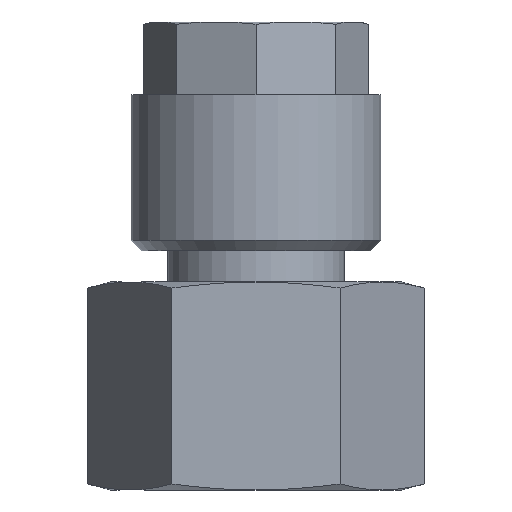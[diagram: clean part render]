
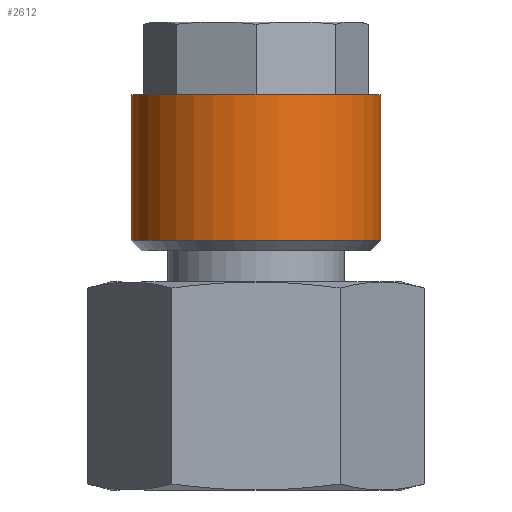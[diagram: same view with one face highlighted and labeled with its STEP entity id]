
A CAD part, front view. The second image highlights one B-rep face of the part: STEP entity #2612.
In plain terms, the highlighted cylindrical face has radius 6 mm (diameter 12 mm), a full revolution.
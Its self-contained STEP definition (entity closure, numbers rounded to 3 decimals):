
#1106=CYLINDRICAL_SURFACE('',#2517,6.);
#1416=ORIENTED_EDGE('',*,*,#1643,.F.);
#1417=ORIENTED_EDGE('',*,*,#1644,.T.);
#1465=CIRCLE('',#2516,6.);
#1466=CIRCLE('',#2518,6.);
#1537=VERTEX_POINT('',#2363);
#1538=VERTEX_POINT('',#2366);
#1643=EDGE_CURVE('',#1537,#1537,#1465,.T.);
#1644=EDGE_CURVE('',#1538,#1538,#1466,.T.);
#1724=EDGE_LOOP('',(#1416));
#1725=EDGE_LOOP('',(#1417));
#1810=FACE_BOUND('',#1724,.T.);
#1811=FACE_BOUND('',#1725,.T.);
#2114=DIRECTION('',(0.,1.,0.));
#2115=DIRECTION('',(0.,0.,-6.));
#2116=DIRECTION('',(0.,1.,0.));
#2117=DIRECTION('',(1.,0.,0.));
#2118=DIRECTION('',(0.,1.,0.));
#2119=DIRECTION('',(0.,0.,6.));
#2363=CARTESIAN_POINT('',(0.,7.5,-6.));
#2364=CARTESIAN_POINT('',(0.,7.5,0.));
#2365=CARTESIAN_POINT('',(0.,0.5,0.));
#2366=CARTESIAN_POINT('',(0.,0.5,6.));
#2367=CARTESIAN_POINT('',(0.,0.5,0.));
#2516=AXIS2_PLACEMENT_3D('',#2364,#2114,#2115);
#2517=AXIS2_PLACEMENT_3D('',#2365,#2116,#2117);
#2518=AXIS2_PLACEMENT_3D('',#2367,#2118,#2119);
#2612=ADVANCED_FACE('',(#1810,#1811),#1106,.T.);
